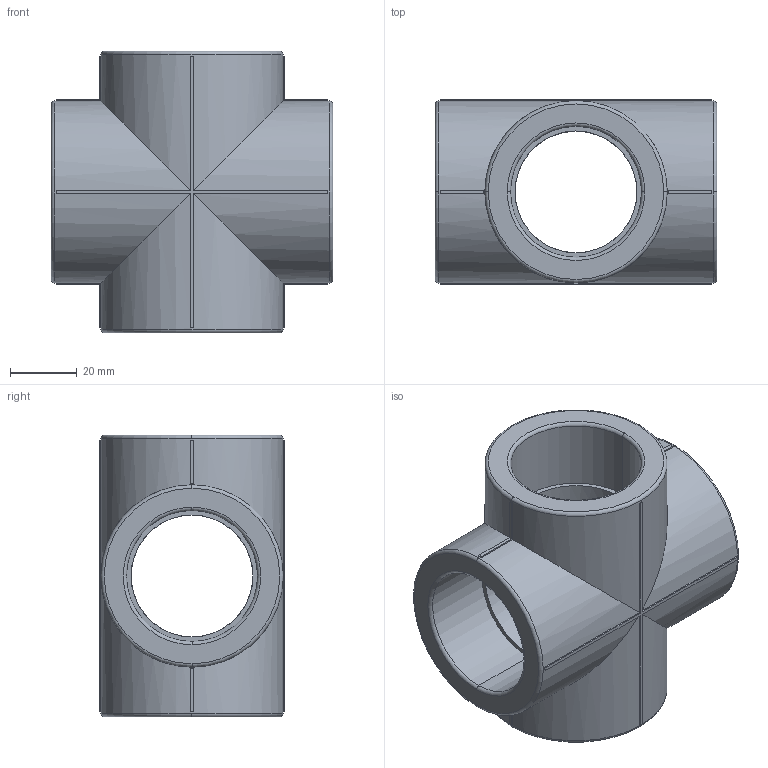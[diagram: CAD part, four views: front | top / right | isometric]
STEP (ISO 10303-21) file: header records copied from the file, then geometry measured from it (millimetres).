
FILE_DESCRIPTION (( 'STEP AP203' ), '1' );
FILE_NAME ('PPH04 FADO.STEP', '2022-08-23T14:05:29', ( '' ), ( '' ), 'SwSTEP 2.0', 'SolidWorks 2021', '' );
FILE_SCHEMA (( 'CONFIG_CONTROL_DESIGN' ));
Length unit declared in the file: millimetre
Products named in the file (1): PPH04 FADO
Bounding box: 84.5 x 55.5 x 84.5 mm (x, y, z)
Volume: 128673.1 mm3; surface area: 36927.5 mm2
Topology: 1 solids, 1 shells, 98 faces, 252 edges, 158 vertices
Faces by surface type: plane 58, cylinder 24, torus 16
Entity records: 3053 total; most frequent: CARTESIAN_POINT 557, DIRECTION 522, ORIENTED_EDGE 504, EDGE_CURVE 252, AXIS2_PLACEMENT_3D 187, VERTEX_POINT 158, VECTOR 148, LINE 148
